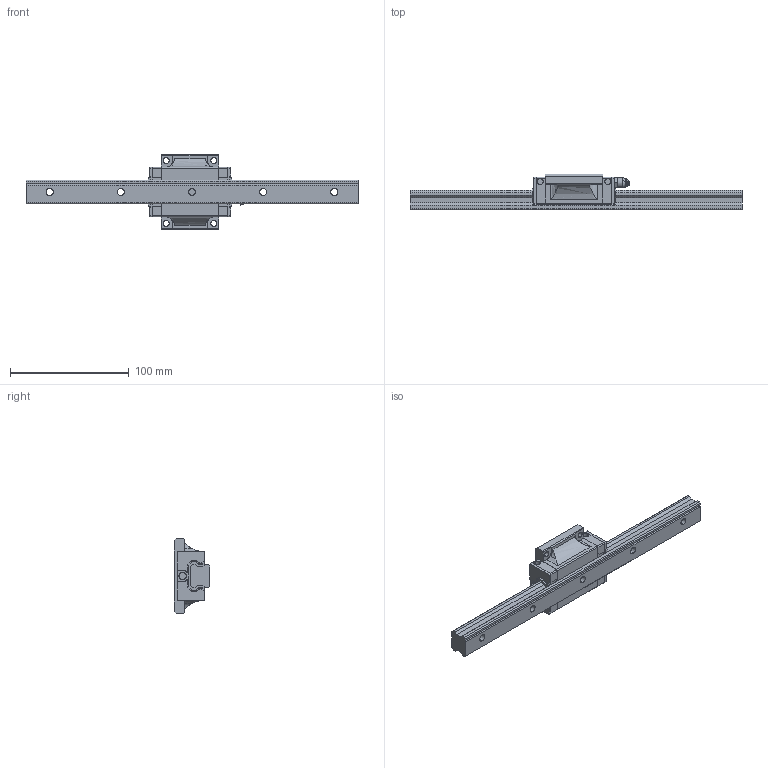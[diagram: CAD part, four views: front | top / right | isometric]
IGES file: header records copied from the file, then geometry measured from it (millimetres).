
Start section: SolidWorks IGES file using analytic representation for surfaces
Global section: file name: C:\Users\tsuch\OneDrive\デスクトップ\EG20関連修正(3D)\EGH20F.IGS; native system: SolidWorks 2019; preprocessor: SolidWorks 2019; author: tsuch; date: 210625.172329; units: millimetre
Bounding box: 280 x 30 x 63 mm (x, y, z)
Surface area: 45179.2 mm2 (no closed solid volume)
Topology: 0 solids, 0 shells, 533 faces, 5367 edges, 5367 vertices
Faces by surface type: bspline 346, revolution 187
